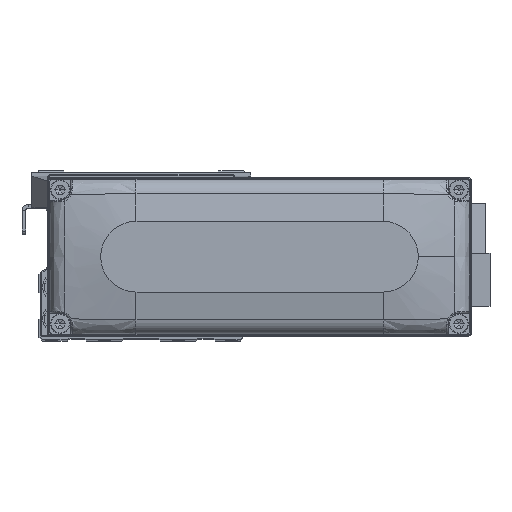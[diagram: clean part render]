
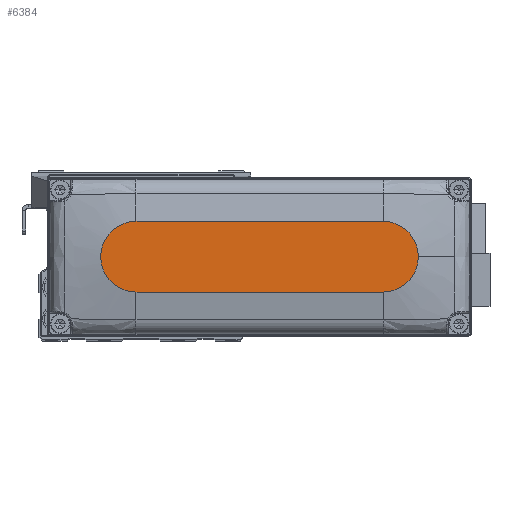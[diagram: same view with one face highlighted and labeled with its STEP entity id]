
A CAD part, top view. The second image highlights one B-rep face of the part: STEP entity #6384.
In plain terms, the highlighted planar face has unit normal (0, 0, 1).
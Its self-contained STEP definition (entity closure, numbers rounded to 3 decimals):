
#490 = LINE ( 'NONE', #13095, #11391 ) ;
#757 = CARTESIAN_POINT ( 'NONE',  ( 45., 0., 28. ) ) ;
#1486 = DIRECTION ( 'NONE',  ( 1., 0., 0. ) ) ;
#3356 = EDGE_CURVE ( 'NONE', #36358, #25592, #36856, .T. ) ;
#4592 = PLANE ( 'NONE',  #14188 ) ;
#5060 = CARTESIAN_POINT ( 'NONE',  ( 35., -10., 28. ) ) ;
#6379 = AXIS2_PLACEMENT_3D ( 'NONE', #22866, #35465, #7172 ) ;
#6384 = ADVANCED_FACE ( 'NONE', ( #32891 ), #4592, .T. ) ;
#7172 = DIRECTION ( 'NONE',  ( 1., 0., 0. ) ) ;
#8410 = EDGE_CURVE ( 'NONE', #22032, #36358, #39651, .T. ) ;
#8648 = EDGE_CURVE ( 'NONE', #25592, #34539, #24194, .T. ) ;
#9618 = DIRECTION ( 'NONE',  ( 1., 0., 0. ) ) ;
#9797 = AXIS2_PLACEMENT_3D ( 'NONE', #27797, #40415, #12114 ) ;
#11105 = CARTESIAN_POINT ( 'NONE',  ( 35., 10., 28. ) ) ;
#11354 = CARTESIAN_POINT ( 'NONE',  ( -35., -10., 28. ) ) ;
#11391 = VECTOR ( 'NONE', #25682, 1000. ) ;
#12114 = DIRECTION ( 'NONE',  ( 1., 0., 0. ) ) ;
#13095 = CARTESIAN_POINT ( 'NONE',  ( -35., 10., 28. ) ) ;
#14188 = AXIS2_PLACEMENT_3D ( 'NONE', #17189, #29774, #1486 ) ;
#17189 = CARTESIAN_POINT ( 'NONE',  ( 0., 0., 28. ) ) ;
#18083 = ORIENTED_EDGE ( 'NONE', *, *, #8648, .T. ) ;
#19556 = VECTOR ( 'NONE', #23936, 1000. ) ;
#19784 = EDGE_LOOP ( 'NONE', ( #26269, #31544, #37043, #35341, #18083 ) ) ;
#20287 = VERTEX_POINT ( 'NONE', #30162 ) ;
#22032 = VERTEX_POINT ( 'NONE', #23911 ) ;
#22866 = CARTESIAN_POINT ( 'NONE',  ( 35., 0., 28. ) ) ;
#23911 = CARTESIAN_POINT ( 'NONE',  ( -35., -10., 28. ) ) ;
#23936 = DIRECTION ( 'NONE',  ( 1., 0., 0. ) ) ;
#24194 = CIRCLE ( 'NONE', #6379, 10. ) ;
#25286 = CARTESIAN_POINT ( 'NONE',  ( 35., 0., 28. ) ) ;
#25592 = VERTEX_POINT ( 'NONE', #757 ) ;
#25682 = DIRECTION ( 'NONE',  ( -1., 0., 0. ) ) ;
#25843 = EDGE_CURVE ( 'NONE', #20287, #22032, #27605, .T. ) ;
#26269 = ORIENTED_EDGE ( 'NONE', *, *, #30092, .T. ) ;
#27605 = CIRCLE ( 'NONE', #9797, 10. ) ;
#27797 = CARTESIAN_POINT ( 'NONE',  ( -35., 0., 28. ) ) ;
#29774 = DIRECTION ( 'NONE',  ( 0., 0., 1. ) ) ;
#30092 = EDGE_CURVE ( 'NONE', #34539, #20287, #490, .T. ) ;
#30162 = CARTESIAN_POINT ( 'NONE',  ( -35., 10., 28. ) ) ;
#31544 = ORIENTED_EDGE ( 'NONE', *, *, #25843, .T. ) ;
#32891 = FACE_OUTER_BOUND ( 'NONE', #19784, .T. ) ;
#34539 = VERTEX_POINT ( 'NONE', #11105 ) ;
#35341 = ORIENTED_EDGE ( 'NONE', *, *, #3356, .T. ) ;
#35465 = DIRECTION ( 'NONE',  ( 0., 0., 1. ) ) ;
#36358 = VERTEX_POINT ( 'NONE', #5060 ) ;
#36827 = AXIS2_PLACEMENT_3D ( 'NONE', #25286, #37907, #9618 ) ;
#36856 = CIRCLE ( 'NONE', #36827, 10. ) ;
#37043 = ORIENTED_EDGE ( 'NONE', *, *, #8410, .T. ) ;
#37907 = DIRECTION ( 'NONE',  ( 0., 0., 1. ) ) ;
#39651 = LINE ( 'NONE', #11354, #19556 ) ;
#40415 = DIRECTION ( 'NONE',  ( 0., 0., 1. ) ) ;
